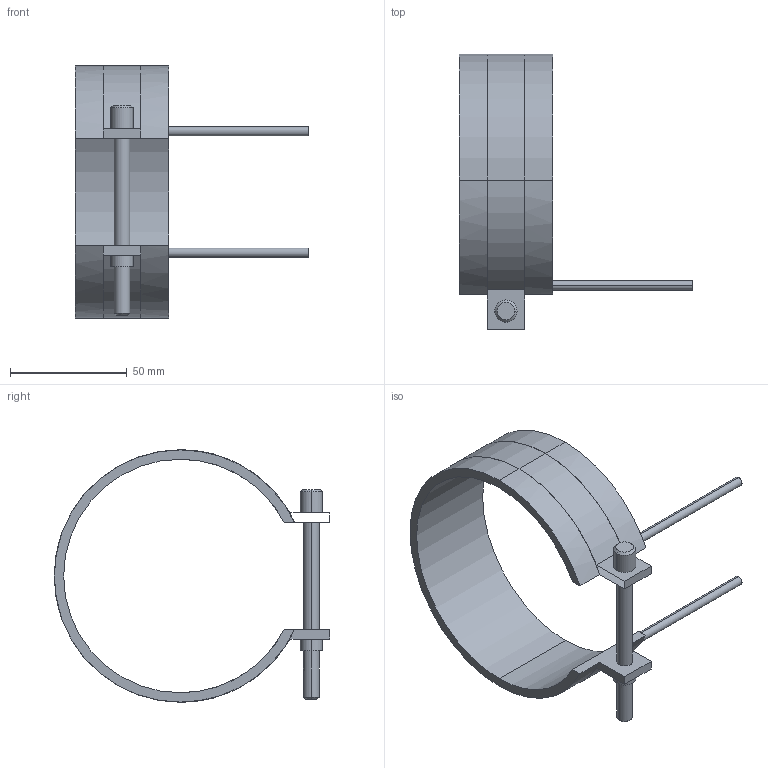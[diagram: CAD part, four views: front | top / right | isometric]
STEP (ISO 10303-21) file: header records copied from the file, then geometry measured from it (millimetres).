
FILE_DESCRIPTION(('CATIA V5 STEP Exchange'),'2;1');
FILE_NAME('C:\Users\Utente\Desktop\IO LAVORO\3D X SITO CF\X SITO\PLASTICA\RF2\14100040.stp','2021-04-03T08:54:15+00:00',('none'),('none'),'CATIA Version 5 Release 20 GA (IN-10)','CATIA V5 STEP AP203','none');
FILE_SCHEMA(('CONFIG_CONTROL_DESIGN'));
Length unit declared in the file: millimetre
Products named in the file (1): 14100040
Bounding box: 100 x 118.1 x 108.2 mm (x, y, z)
Volume: 52064.1 mm3; surface area: 29513.8 mm2
Topology: 1 solids, 1 shells, 45 faces, 116 edges, 76 vertices
Faces by surface type: cylinder 24, plane 17, cone 4
Entity records: 1400 total; most frequent: CARTESIAN_POINT 274, ORIENTED_EDGE 232, DIRECTION 196, EDGE_CURVE 116, AXIS2_PLACEMENT_3D 104, VERTEX_POINT 76, CIRCLE 62, VECTOR 52
